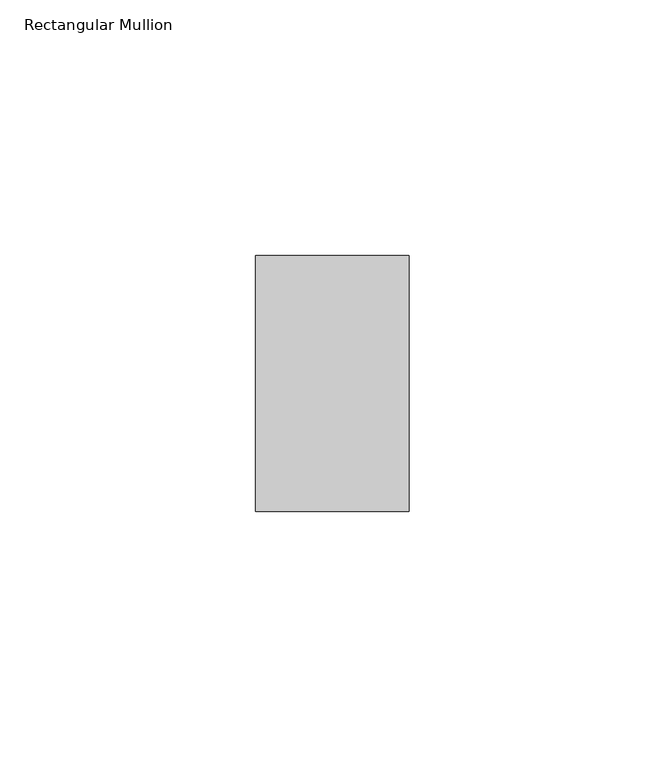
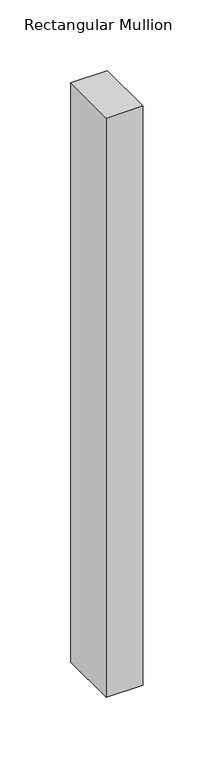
"""IFC4 building model written with IfcOpenShell, lengths in millimetres: member geometry, Rectangular Mullion : ARQ_TV_MULL_50x30mm."""

import ifcopenshell
import ifcopenshell.guid

model = None  # the IFC model being written
_history = None  # IfcOwnerHistory: only IFC2X3 demands one
_inside = {}  # id of a spatial element -> (the spatial element, [elements in it])
_under = {}  # id of a project, library or spatial element -> (it, [spatial elements below it])
_declared = {}  # id of a project -> (the project, [libraries it declares])
_typed = {}  # id of a type object -> (the type object, [elements of that type])
_made_of = {}  # id of a material, layer set ... -> (it, [elements and type objects made of it])


def new_model(schema):
    """Start an empty IFC model of exactly this schema.

    Asked for "IFC4X3", IfcOpenShell would pick the latest addendum, in which some entities
    have other attributes; the version numbers below select the first issue.
    IFC2X3 requires an IfcOwnerHistory on every rooted entity: one is made here for all.
    """
    global model, _history
    if schema == "IFC4X3":
        model = ifcopenshell.file(schema_version=(4, 3, 0, 0))
    else:
        model = ifcopenshell.file(schema=schema)
    _inside.clear()
    _under.clear()
    _declared.clear()
    _typed.clear()
    _made_of.clear()
    _history = None
    if model.schema == "IFC2X3":
        org = make("IfcOrganization", Name="unknown")
        user = make(
            "IfcPersonAndOrganization",
            ThePerson=make("IfcPerson", FamilyName="unknown"),
            TheOrganization=org,
        )
        app = make(
            "IfcApplication",
            ApplicationDeveloper=org,
            Version="unknown",
            ApplicationFullName="unknown",
            ApplicationIdentifier="unknown",
        )
        _history = make(
            "IfcOwnerHistory",
            OwningUser=user,
            OwningApplication=app,
            ChangeAction="ADDED",
            CreationDate=0,
        )
    return model


def make(cls, **values):
    """One entity of the class cls with the attributes given. An attribute that is None is left unset."""
    return model.create_entity(
        cls, **{name: value for name, value in values.items() if value is not None}
    )


def rooted(cls, **values):
    """An entity with a GlobalId (a new one), such as an element, a storey or a relation."""
    return make(cls, GlobalId=ifcopenshell.guid.new(), OwnerHistory=_history, **values)


def si_unit(unit_type, name, prefix=None):
    """IfcSIUnit, for example si_unit("LENGTHUNIT", "METRE", prefix="MILLI")."""
    return make("IfcSIUnit", UnitType=unit_type, Prefix=prefix, Name=name)


def assignment(units):
    """IfcUnitAssignment: the units of a project."""
    return None if units is None else make("IfcUnitAssignment", Units=units)


def point(xyz):
    """IfcCartesianPoint."""
    return None if xyz is None else make("IfcCartesianPoint", Coordinates=xyz)


def direction(xyz):
    """IfcDirection."""
    return None if xyz is None else make("IfcDirection", DirectionRatios=xyz)


def frame(location, z_axis=None, x_axis=None):
    """IfcAxis2Placement3D, a coordinate frame: its origin and axes. An axis left out is left unset."""
    return make(
        "IfcAxis2Placement3D",
        Location=point(location),
        Axis=direction(z_axis),
        RefDirection=direction(x_axis),
    )


def origin():
    """The frame at (0, 0, 0) with its axes left unset."""
    return frame((0.0, 0.0, 0.0))


def place(relative_to, where):
    """IfcLocalPlacement: puts the frame where relative to a parent placement (None: the world)."""
    return make(
        "IfcLocalPlacement", PlacementRelTo=relative_to, RelativePlacement=where
    )


def context(
    kind, dimensions, precision=None, world=None, true_north=None, identifier=None
):
    """IfcGeometricRepresentationContext, for example the 3D "Model" context."""
    return make(
        "IfcGeometricRepresentationContext",
        ContextIdentifier=identifier,
        ContextType=kind,
        CoordinateSpaceDimension=dimensions,
        Precision=precision,
        WorldCoordinateSystem=world,
        TrueNorth=true_north,
    )


def project(units=None, contexts=None):
    """IfcProject with its units and contexts."""
    return rooted(
        "IfcProject",
        Name="project",
        RepresentationContexts=contexts,
        UnitsInContext=assignment(units),
    )


def spatial(cls, under=None, at=None, **own):
    """A site, building, storey or space (cls), placed at a placement, below another one or the project."""
    s = rooted(cls, ObjectPlacement=at, **own)
    if under is not None:
        _under.setdefault(under.id(), (under, []))[1].append(s)
    return s


def polyline(points):
    """IfcPolyline through the points."""
    return make("IfcPolyline", Points=[point(p) for p in points])


def outline(outer, holes=None, kind="AREA"):
    """IfcArbitraryClosedProfileDef: a profile drawn as a closed curve; with holes, ...WithVoids."""
    if holes is None:
        return make("IfcArbitraryClosedProfileDef", ProfileType=kind, OuterCurve=outer)
    return make(
        "IfcArbitraryProfileDefWithVoids",
        ProfileType=kind,
        OuterCurve=outer,
        InnerCurves=holes,
    )


def extrude(swept, where, along, depth):
    """IfcExtrudedAreaSolid: the profile swept, set in the frame where, extruded along a direction by depth."""
    return make(
        "IfcExtrudedAreaSolid",
        SweptArea=swept,
        Position=where,
        ExtrudedDirection=direction(along),
        Depth=depth,
    )


def shape(context_of_items, identifier, shape_type, items):
    """IfcShapeRepresentation: the items that make up one representation, for example the "Body"."""
    return make(
        "IfcShapeRepresentation",
        ContextOfItems=context_of_items,
        RepresentationIdentifier=identifier,
        RepresentationType=shape_type,
        Items=items,
    )


def source(mapping_origin, context_of_items, identifier, shape_type, items):
    """IfcRepresentationMap: a shape defined once, which mapped items show again and again."""
    return make(
        "IfcRepresentationMap",
        MappingOrigin=mapping_origin,
        MappedRepresentation=shape(context_of_items, identifier, shape_type, items),
    )


def transform(
    local_origin,
    x_axis=None,
    y_axis=None,
    z_axis=None,
    scale=None,
    scale2=None,
    scale3=None,
    uniform=True,
):
    """IfcCartesianTransformationOperator3D, or its non-uniform kind. x_axis, y_axis, z_axis: its Axis1, 2, 3."""
    if uniform:
        return make(
            "IfcCartesianTransformationOperator3D",
            Axis1=direction(x_axis),
            Axis2=direction(y_axis),
            LocalOrigin=point(local_origin),
            Scale=scale,
            Axis3=direction(z_axis),
        )
    return make(
        "IfcCartesianTransformationOperator3DnonUniform",
        Axis1=direction(x_axis),
        Axis2=direction(y_axis),
        LocalOrigin=point(local_origin),
        Scale=scale,
        Axis3=direction(z_axis),
        Scale2=scale2,
        Scale3=scale3,
    )


def mapped(mapping_source, mapping_target):
    """IfcMappedItem: shows the shape of a source again, moved by a transform."""
    return make(
        "IfcMappedItem", MappingSource=mapping_source, MappingTarget=mapping_target
    )


def made_of(thing, what):
    """Note that an element or type object is made of a material, layer set ...; save() writes the relation."""
    if what is not None:
        _made_of.setdefault(what.id(), (what, []))[1].append(thing)
    return thing


def element(
    cls,
    number,
    at=None,
    inside=None,
    cuts=None,
    type_object=None,
    material=None,
    context=None,
    identifier="Body",
    shape_type=None,
    held_by="IfcProductDefinitionShape",
    body=None,
    shapes=None,
    **own,
):
    """One element of the class cls, such as IfcWall. Its Tag is "e" and its number.

    at: its placement. inside: the storey or other place that contains it. cuts: it is an
    opening in that element (IfcRelVoidsElement). A single representation is given by context,
    identifier, shape_type and body (its items); several are given by shapes. held_by: the class
    of the entity that holds the representations. save() writes the other relations.
    """
    e = rooted(cls, Tag="e%d" % number, ObjectPlacement=at, **own)
    if body is not None:
        shapes = [shape(context, identifier, shape_type, body)]
    if shapes is not None:
        e.Representation = make(held_by, Representations=shapes)
    if inside is not None:
        _inside.setdefault(inside.id(), (inside, []))[1].append(e)
    if cuts is not None:
        rooted(
            "IfcRelVoidsElement", RelatingBuildingElement=cuts, RelatedOpeningElement=e
        )
    if type_object is not None:
        _typed.setdefault(type_object.id(), (type_object, []))[1].append(e)
    return made_of(e, material)


def aggregate(whole, parts):
    """IfcRelAggregates: a whole, such as a stair, and the parts it consists of."""
    return rooted("IfcRelAggregates", RelatingObject=whole, RelatedObjects=parts)


def save(model, path):
    """Write the relations noted so far, then the file.

    IfcRelAggregates (storeys below a building ...), IfcRelContainedInSpatialStructure (elements
    in a storey), IfcRelDefinesByType, IfcRelAssociatesMaterial and IfcRelDeclares: one each for
    every whole, place, type object, material and project.
    """
    for whole, parts in _under.values():
        aggregate(whole, parts)
    for where, things in _inside.values():
        rooted(
            "IfcRelContainedInSpatialStructure",
            RelatedElements=things,
            RelatingStructure=where,
        )
    for kind, things in _typed.values():
        rooted("IfcRelDefinesByType", RelatedObjects=things, RelatingType=kind)
    for what, things in _made_of.values():
        rooted("IfcRelAssociatesMaterial", RelatedObjects=things, RelatingMaterial=what)
    for by, libraries in _declared.values():
        rooted("IfcRelDeclares", RelatingContext=by, RelatedDefinitions=libraries)
    model.write(path)


def rectangular_mullion_4edd1dab(model_context):
    return source(origin(), model_context, "Body", "SweptSolid", [
        extrude(outline(polyline([(15.0, 25.0), (15.0, -25.0), (-15.0, -25.0), (-15.0, 25.0), (15.0, 25.0)])), frame((0.0, 0.0, -500.0), z_axis=(0.0, 0.0, 1.0), x_axis=(1.0, 0.0, 0.0)), (0.0, 0.0, 1.0), 500.0),
    ])


if __name__ == "__main__":
    model = new_model("IFC4")
    model_context = context("Model", 3, world=origin())
    ifc_project = project(units=[si_unit("LENGTHUNIT", "METRE", prefix="MILLI")], contexts=[model_context])
    site = spatial("IfcSite", under=ifc_project)
    building = spatial("IfcBuilding", under=site)
    placement = place(None, origin())
    rectangular_mullion_shape = rectangular_mullion_4edd1dab(model_context)
    element("IfcMember", 1, ObjectType="Rectangular Mullion : ARQ_TV_MULL_50x30mm", at=placement, inside=building, context=model_context, shape_type="MappedRepresentation", body=[
        mapped(rectangular_mullion_shape, transform((0.0, 0.0, 0.0), x_axis=(1.0, 0.0, 0.0), y_axis=(0.0, 1.0, 0.0), z_axis=(0.0, 0.0, 1.0))),
    ])
    save(model, "model.ifc")
